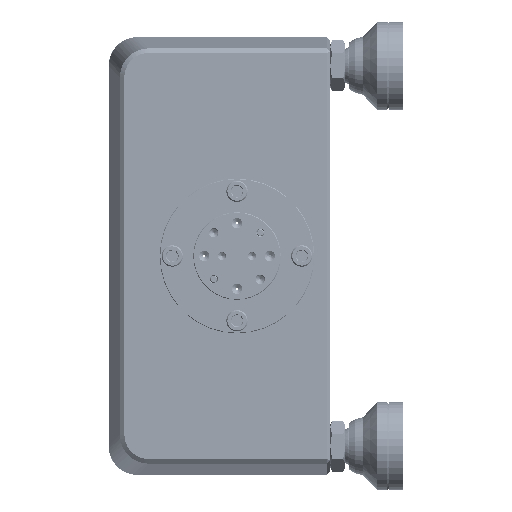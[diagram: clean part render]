
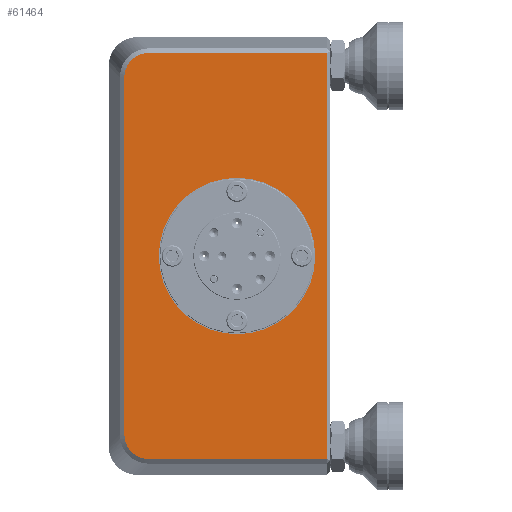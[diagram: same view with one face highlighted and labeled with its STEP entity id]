
A CAD part, left-side view. The second image highlights one B-rep face of the part: STEP entity #61464.
In plain terms, the highlighted planar face has unit normal (-1, 0, 0).
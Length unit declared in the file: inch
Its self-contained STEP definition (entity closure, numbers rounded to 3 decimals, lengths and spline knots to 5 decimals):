
#7479 = CARTESIAN_POINT ( 'NONE',  ( -0.753, 1.75839, 1.58568 ) ) ;
#9269 = CIRCLE ( 'NONE', #179790, 0.67 ) ;
#9406 = EDGE_CURVE ( 'NONE', #17433, #227265, #148764, .T. ) ;
#11543 = LINE ( 'NONE', #210785, #211554 ) ;
#12745 = ORIENTED_EDGE ( 'NONE', *, *, #79140, .T. ) ;
#12940 = CARTESIAN_POINT ( 'NONE',  ( -0.753, 1.73762, -1.63605 ) ) ;
#14697 = EDGE_CURVE ( 'NONE', #37629, #211589, #209418, .T. ) ;
#16260 = EDGE_CURVE ( 'NONE', #29409, #168133, #9269, .T. ) ;
#17433 = VERTEX_POINT ( 'NONE', #102011 ) ;
#21566 = CARTESIAN_POINT ( 'NONE',  ( -0.753, 0.95, -1.74008 ) ) ;
#28033 = VERTEX_POINT ( 'NONE', #131244 ) ;
#28282 = CARTESIAN_POINT ( 'NONE',  ( -0.753, 1.64898, 1.71906 ) ) ;
#28587 = CARTESIAN_POINT ( 'NONE',  ( -0.753, 1.62377, -1.72945 ) ) ;
#29409 = VERTEX_POINT ( 'NONE', #227938 ) ;
#29627 = EDGE_LOOP ( 'NONE', ( #218162, #173568, #137551, #12745, #61376, #174038 ) ) ;
#31166 = CARTESIAN_POINT ( 'NONE',  ( -0.753, 1.66105, -1.71262 ) ) ;
#33309 = DIRECTION ( 'NONE',  ( -1., 0., 0. ) ) ;
#36297 = PLANE ( 'NONE',  #177087 ) ;
#37629 = VERTEX_POINT ( 'NONE', #178526 ) ;
#40809 = B_SPLINE_CURVE_WITH_KNOTS ( 'NONE', 3,
 ( #244508, #205428, #66143, #88254, #84395, #28282, #107804, #45270, #223650, #166408, #245791, #222392, #184646, #145590, #7479, #224937, #86972, #163868 ),
 .UNSPECIFIED., .F., .F.,
 ( 4, 2, 2, 2, 2, 2, 2, 2, 4 ),
 ( 0., 0.125, 0.25, 0.375, 0.5, 0.625, 0.75, 0.875, 1. ),
 .UNSPECIFIED. ) ;
#43771 = ORIENTED_EDGE ( 'NONE', *, *, #166768, .F. ) ;
#45270 = CARTESIAN_POINT ( 'NONE',  ( -0.753, 1.68393, 1.69737 ) ) ;
#48155 = CARTESIAN_POINT ( 'NONE',  ( -0.753, 1.58359, -1.73874 ) ) ;
#50735 = CARTESIAN_POINT ( 'NONE',  ( -0.753, 1.6945, -1.68872 ) ) ;
#54176 = CARTESIAN_POINT ( 'NONE',  ( -0.753, 0.8, 0. ) ) ;
#61376 = ORIENTED_EDGE ( 'NONE', *, *, #186646, .T. ) ;
#61464 = ADVANCED_FACE ( 'NONE', ( #96265, #114529 ), #36297, .F. ) ;
#66143 = CARTESIAN_POINT ( 'NONE',  ( -0.753, 1.58357, 1.73873 ) ) ;
#67743 = CARTESIAN_POINT ( 'NONE',  ( -0.753, 1.72237, -1.65893 ) ) ;
#70300 = CARTESIAN_POINT ( 'NONE',  ( -0.753, 1.76508, -1.53116 ) ) ;
#71163 = DIRECTION ( 'NONE',  ( 0., 0., 1. ) ) ;
#71593 = CARTESIAN_POINT ( 'NONE',  ( -0.753, 1.55616, -1.74008 ) ) ;
#75430 = DIRECTION ( 'NONE',  ( 1., 0., 0. ) ) ;
#79140 = EDGE_CURVE ( 'NONE', #211589, #108436, #11543, .T. ) ;
#79804 = VECTOR ( 'NONE', #84516, 39.37008 ) ;
#84395 = CARTESIAN_POINT ( 'NONE',  ( -0.753, 1.62378, 1.72944 ) ) ;
#84477 = CIRCLE ( 'NONE', #234298, 0.67 ) ;
#84516 = DIRECTION ( 'NONE',  ( 0., 0., 1. ) ) ;
#85081 = CARTESIAN_POINT ( 'NONE',  ( -0.753, 0.8, 0.67 ) ) ;
#86972 = CARTESIAN_POINT ( 'NONE',  ( -0.753, 1.76508, 1.54493 ) ) ;
#88254 = CARTESIAN_POINT ( 'NONE',  ( -0.753, 1.61065, 1.73339 ) ) ;
#91681 = B_SPLINE_CURVE_WITH_KNOTS ( 'NONE', 3,
 ( #70300, #170579, #92441, #249955, #246110, #130217, #12940, #67743, #126383, #50735, #110669, #31166, #111967, #28587, #187518, #48155, #169294, #71593 ),
 .UNSPECIFIED., .F., .F.,
 ( 4, 2, 2, 2, 2, 2, 2, 2, 4 ),
 ( 0., 0.125, 0.25, 0.375, 0.5, 0.625, 0.75, 0.875, 1. ),
 .UNSPECIFIED. ) ;
#92441 = CARTESIAN_POINT ( 'NONE',  ( -0.753, 1.76373, -1.55857 ) ) ;
#96265 = FACE_BOUND ( 'NONE', #109770, .T. ) ;
#102011 = CARTESIAN_POINT ( 'NONE',  ( -0.753, 1.76508, 1.53116 ) ) ;
#107804 = CARTESIAN_POINT ( 'NONE',  ( -0.753, 1.66105, 1.71262 ) ) ;
#108436 = VERTEX_POINT ( 'NONE', #126289 ) ;
#109770 = EDGE_LOOP ( 'NONE', ( #43771, #186040 ) ) ;
#110669 = CARTESIAN_POINT ( 'NONE',  ( -0.753, 1.68393, -1.69737 ) ) ;
#111967 = CARTESIAN_POINT ( 'NONE',  ( -0.753, 1.64899, -1.71905 ) ) ;
#114529 = FACE_OUTER_BOUND ( 'NONE', #29627, .T. ) ;
#126053 = VECTOR ( 'NONE', #142720, 39.37008 ) ;
#126289 = CARTESIAN_POINT ( 'NONE',  ( -0.753, 1.55616, 1.74008 ) ) ;
#126383 = CARTESIAN_POINT ( 'NONE',  ( -0.753, 1.71372, -1.66949 ) ) ;
#127084 = VECTOR ( 'NONE', #230688, 39.37008 ) ;
#130217 = CARTESIAN_POINT ( 'NONE',  ( -0.753, 1.74406, -1.62398 ) ) ;
#131244 = CARTESIAN_POINT ( 'NONE',  ( -0.753, 1.55616, -1.74008 ) ) ;
#137551 = ORIENTED_EDGE ( 'NONE', *, *, #14697, .T. ) ;
#142720 = DIRECTION ( 'NONE',  ( 0., -1., 0. ) ) ;
#145590 = CARTESIAN_POINT ( 'NONE',  ( -0.753, 1.75445, 1.59877 ) ) ;
#146327 = EDGE_CURVE ( 'NONE', #227265, #28033, #91681, .T. ) ;
#148764 = LINE ( 'NONE', #228097, #127084 ) ;
#148886 = CARTESIAN_POINT ( 'NONE',  ( -0.753, 0.03, 1.74008 ) ) ;
#158743 = CARTESIAN_POINT ( 'NONE',  ( -0.753, 0.95, 0. ) ) ;
#163868 = CARTESIAN_POINT ( 'NONE',  ( -0.753, 1.76508, 1.53116 ) ) ;
#166408 = CARTESIAN_POINT ( 'NONE',  ( -0.753, 1.71372, 1.6695 ) ) ;
#166768 = EDGE_CURVE ( 'NONE', #168133, #29409, #84477, .T. ) ;
#168133 = VERTEX_POINT ( 'NONE', #85081 ) ;
#168269 = DIRECTION ( 'NONE',  ( -1., 0., 0. ) ) ;
#169294 = CARTESIAN_POINT ( 'NONE',  ( -0.753, 1.56993, -1.74008 ) ) ;
#170579 = CARTESIAN_POINT ( 'NONE',  ( -0.753, 1.76508, -1.54489 ) ) ;
#173568 = ORIENTED_EDGE ( 'NONE', *, *, #247329, .T. ) ;
#174038 = ORIENTED_EDGE ( 'NONE', *, *, #9406, .T. ) ;
#177087 = AXIS2_PLACEMENT_3D ( 'NONE', #158743, #75430, #234254 ) ;
#178526 = CARTESIAN_POINT ( 'NONE',  ( -0.753, 0.03, -1.74008 ) ) ;
#179790 = AXIS2_PLACEMENT_3D ( 'NONE', #248938, #168269, #228082 ) ;
#184646 = CARTESIAN_POINT ( 'NONE',  ( -0.753, 1.74405, 1.62399 ) ) ;
#186040 = ORIENTED_EDGE ( 'NONE', *, *, #16260, .F. ) ;
#186646 = EDGE_CURVE ( 'NONE', #108436, #17433, #40809, .T. ) ;
#187518 = CARTESIAN_POINT ( 'NONE',  ( -0.753, 1.61068, -1.73339 ) ) ;
#199971 = CARTESIAN_POINT ( 'NONE',  ( -0.753, 1.76508, -1.53116 ) ) ;
#205428 = CARTESIAN_POINT ( 'NONE',  ( -0.753, 1.56989, 1.74008 ) ) ;
#208115 = CARTESIAN_POINT ( 'NONE',  ( -0.753, 0.03, 0. ) ) ;
#209418 = LINE ( 'NONE', #208115, #79804 ) ;
#210785 = CARTESIAN_POINT ( 'NONE',  ( -0.753, 0.95, 1.74008 ) ) ;
#211554 = VECTOR ( 'NONE', #246002, 39.37008 ) ;
#211589 = VERTEX_POINT ( 'NONE', #148886 ) ;
#218162 = ORIENTED_EDGE ( 'NONE', *, *, #146327, .T. ) ;
#222392 = CARTESIAN_POINT ( 'NONE',  ( -0.753, 1.73762, 1.63605 ) ) ;
#223650 = CARTESIAN_POINT ( 'NONE',  ( -0.753, 1.69449, 1.68872 ) ) ;
#224937 = CARTESIAN_POINT ( 'NONE',  ( -0.753, 1.76374, 1.55859 ) ) ;
#227265 = VERTEX_POINT ( 'NONE', #199971 ) ;
#227938 = CARTESIAN_POINT ( 'NONE',  ( -0.753, 0.8, -0.67 ) ) ;
#228082 = DIRECTION ( 'NONE',  ( 0., 0., 1. ) ) ;
#228097 = CARTESIAN_POINT ( 'NONE',  ( -0.753, 1.76508, 0. ) ) ;
#230688 = DIRECTION ( 'NONE',  ( 0., 0., -1. ) ) ;
#234254 = DIRECTION ( 'NONE',  ( 0., 0., -1. ) ) ;
#234298 = AXIS2_PLACEMENT_3D ( 'NONE', #54176, #33309, #71163 ) ;
#241626 = LINE ( 'NONE', #21566, #126053 ) ;
#244508 = CARTESIAN_POINT ( 'NONE',  ( -0.753, 1.55616, 1.74008 ) ) ;
#245791 = CARTESIAN_POINT ( 'NONE',  ( -0.753, 1.72237, 1.65893 ) ) ;
#246002 = DIRECTION ( 'NONE',  ( 0., 1., 0. ) ) ;
#246110 = CARTESIAN_POINT ( 'NONE',  ( -0.753, 1.75444, -1.59878 ) ) ;
#247329 = EDGE_CURVE ( 'NONE', #28033, #37629, #241626, .T. ) ;
#248938 = CARTESIAN_POINT ( 'NONE',  ( -0.753, 0.8, 0. ) ) ;
#249955 = CARTESIAN_POINT ( 'NONE',  ( -0.753, 1.75839, -1.58565 ) ) ;
